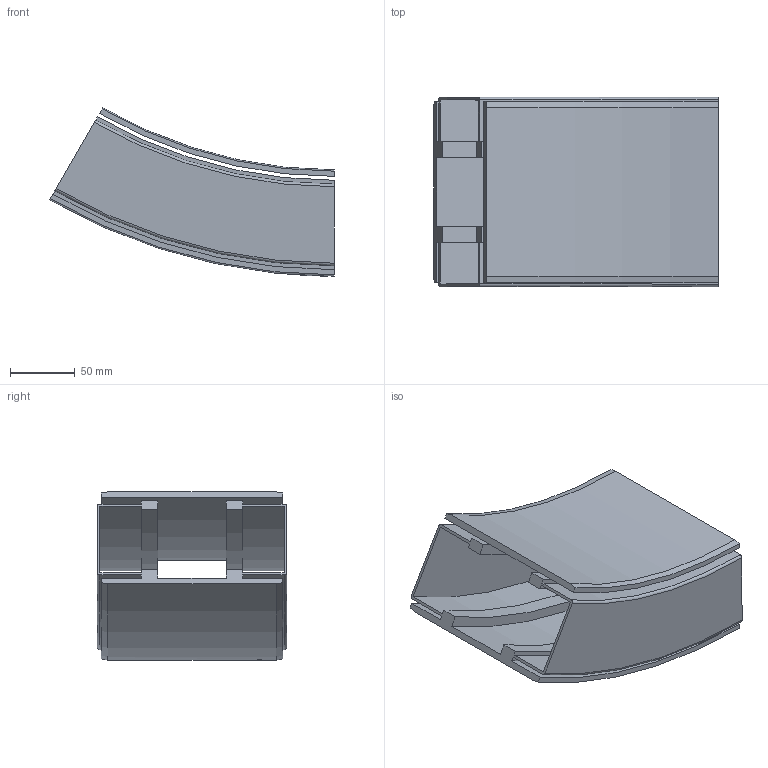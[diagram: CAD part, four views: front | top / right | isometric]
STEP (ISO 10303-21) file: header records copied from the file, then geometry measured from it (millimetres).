
FILE_DESCRIPTION(/* description */ ('VERTIKALKURVA S540 R400'),/* implementation_level */ '2;1');
FILE_NAME(/* name */ '540-5645+140-2000-NER-01.stp',/* time_stamp */ '2022-09-21T10:51:17+02:00',/* author */ ('Mathias.Dore'),/* organization */ ('CARRYLINE'),/* preprocessor_version */ 'ST-DEVELOPER v19.2',/* originating_system */ 'Autodesk Inventor 2023',/* authorisation */ '');
FILE_SCHEMA (('AUTOMOTIVE_DESIGN { 1 0 10303 214 3 1 1 }'));
Length unit declared in the file: millimetre
Products named in the file (1): 540-5645+140-2000-NER-01
Bounding box: 219.75 x 146 x 129.9 mm (x, y, z)
Volume: 479477.9 mm3; surface area: 251838.6 mm2
Topology: 2 solids, 2 shells, 87 faces, 234 edges, 156 vertices
Faces by surface type: plane 40, cylinder 25, bspline 14, cone 4, torus 4
Entity records: 7378 total; most frequent: CARTESIAN_POINT 5179, ORIENTED_EDGE 468, DIRECTION 408, EDGE_CURVE 234, VERTEX_POINT 156, AXIS2_PLACEMENT_3D 141, LINE 126, VECTOR 126
